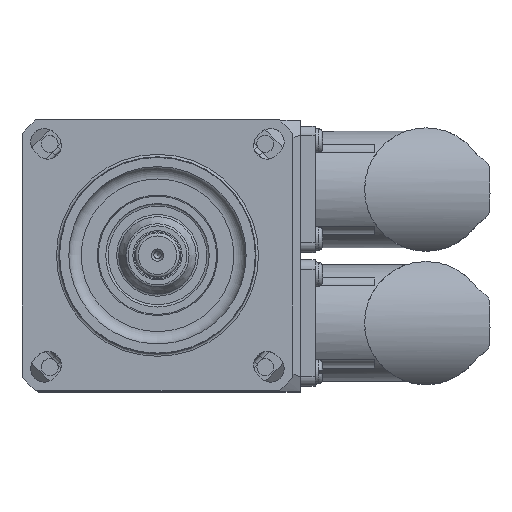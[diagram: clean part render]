
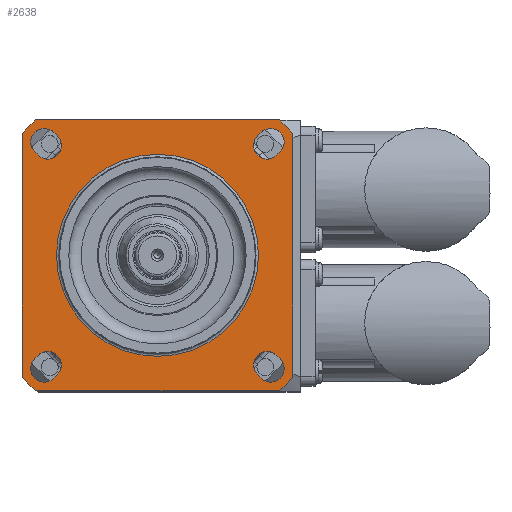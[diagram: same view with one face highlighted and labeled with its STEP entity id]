
A CAD part, top view. The second image highlights one B-rep face of the part: STEP entity #2638.
In plain terms, the highlighted planar face has unit normal (0, 0, 1) as drawn and (0, -1, 0) by its records, which use the part's own axes.
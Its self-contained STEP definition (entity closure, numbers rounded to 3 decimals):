
#847=LINE('',#19184,#1373);
#851=LINE('',#19193,#1377);
#855=LINE('',#19202,#1381);
#859=LINE('',#19211,#1385);
#888=LINE('',#19503,#1414);
#889=LINE('',#19508,#1415);
#890=LINE('',#19511,#1416);
#891=LINE('',#19516,#1417);
#892=LINE('',#19519,#1418);
#893=LINE('',#19524,#1419);
#894=LINE('',#19527,#1420);
#895=LINE('',#19532,#1421);
#1373=VECTOR('',#14880,1.);
#1377=VECTOR('',#14886,1.);
#1381=VECTOR('',#14892,1.);
#1385=VECTOR('',#14898,1.);
#1414=VECTOR('',#14939,1.);
#1415=VECTOR('',#14942,1.);
#1416=VECTOR('',#14945,1.);
#1417=VECTOR('',#14948,1.);
#1418=VECTOR('',#14951,1.);
#1419=VECTOR('',#14954,1.);
#1420=VECTOR('',#14957,1.);
#1421=VECTOR('',#14960,1.);
#2638=ADVANCED_FACE('',(#3978,#3979,#3980,#3981,#3982,#3497),#3190,.T.);
#3190=PLANE('',#12802);
#3497=FACE_OUTER_BOUND('',#4686,.T.);
#3978=FACE_BOUND('',#4681,.T.);
#3979=FACE_BOUND('',#4682,.T.);
#3980=FACE_BOUND('',#4683,.T.);
#3981=FACE_BOUND('',#4684,.T.);
#3982=FACE_BOUND('',#4685,.T.);
#4681=EDGE_LOOP('',(#6594));
#4682=EDGE_LOOP('',(#6595,#6596,#6597,#6598));
#4683=EDGE_LOOP('',(#6599,#6600,#6601,#6602));
#4684=EDGE_LOOP('',(#6603,#6604,#6605,#6606));
#4685=EDGE_LOOP('',(#6607,#6608,#6609,#6610));
#4686=EDGE_LOOP('',(#6611,#6612,#6613,#6614,#6615,#6616,#6617,#6618));
#6594=ORIENTED_EDGE('',*,*,#10555,.T.);
#6595=ORIENTED_EDGE('',*,*,#10556,.T.);
#6596=ORIENTED_EDGE('',*,*,#10557,.F.);
#6597=ORIENTED_EDGE('',*,*,#10558,.F.);
#6598=ORIENTED_EDGE('',*,*,#10559,.F.);
#6599=ORIENTED_EDGE('',*,*,#10560,.T.);
#6600=ORIENTED_EDGE('',*,*,#10561,.F.);
#6601=ORIENTED_EDGE('',*,*,#10562,.F.);
#6602=ORIENTED_EDGE('',*,*,#10563,.F.);
#6603=ORIENTED_EDGE('',*,*,#10564,.T.);
#6604=ORIENTED_EDGE('',*,*,#10565,.F.);
#6605=ORIENTED_EDGE('',*,*,#10566,.F.);
#6606=ORIENTED_EDGE('',*,*,#10567,.F.);
#6607=ORIENTED_EDGE('',*,*,#10568,.T.);
#6608=ORIENTED_EDGE('',*,*,#10569,.F.);
#6609=ORIENTED_EDGE('',*,*,#10570,.F.);
#6610=ORIENTED_EDGE('',*,*,#10571,.F.);
#6611=ORIENTED_EDGE('',*,*,#10572,.T.);
#6612=ORIENTED_EDGE('',*,*,#10498,.T.);
#6613=ORIENTED_EDGE('',*,*,#10573,.T.);
#6614=ORIENTED_EDGE('',*,*,#10490,.T.);
#6615=ORIENTED_EDGE('',*,*,#10574,.T.);
#6616=ORIENTED_EDGE('',*,*,#10486,.T.);
#6617=ORIENTED_EDGE('',*,*,#10575,.T.);
#6618=ORIENTED_EDGE('',*,*,#10494,.F.);
#9129=VERTEX_POINT('',#19179);
#9131=VERTEX_POINT('',#19183);
#9133=VERTEX_POINT('',#19188);
#9135=VERTEX_POINT('',#19192);
#9137=VERTEX_POINT('',#19197);
#9139=VERTEX_POINT('',#19201);
#9141=VERTEX_POINT('',#19206);
#9143=VERTEX_POINT('',#19210);
#9200=VERTEX_POINT('',#19502);
#9201=VERTEX_POINT('',#19504);
#9202=VERTEX_POINT('',#19505);
#9203=VERTEX_POINT('',#19507);
#9204=VERTEX_POINT('',#19509);
#9205=VERTEX_POINT('',#19512);
#9206=VERTEX_POINT('',#19513);
#9207=VERTEX_POINT('',#19515);
#9208=VERTEX_POINT('',#19517);
#9209=VERTEX_POINT('',#19520);
#9210=VERTEX_POINT('',#19521);
#9211=VERTEX_POINT('',#19523);
#9212=VERTEX_POINT('',#19525);
#9213=VERTEX_POINT('',#19528);
#9214=VERTEX_POINT('',#19529);
#9215=VERTEX_POINT('',#19531);
#9216=VERTEX_POINT('',#19533);
#10486=EDGE_CURVE('',#9129,#9131,#847,.T.);
#10490=EDGE_CURVE('',#9133,#9135,#851,.T.);
#10494=EDGE_CURVE('',#9139,#9137,#855,.T.);
#10498=EDGE_CURVE('',#9141,#9143,#859,.T.);
#10555=EDGE_CURVE('',#9200,#9200,#11813,.T.);
#10556=EDGE_CURVE('',#9201,#9202,#888,.T.);
#10557=EDGE_CURVE('',#9203,#9202,#11814,.T.);
#10558=EDGE_CURVE('',#9204,#9203,#889,.T.);
#10559=EDGE_CURVE('',#9201,#9204,#11815,.T.);
#10560=EDGE_CURVE('',#9205,#9206,#890,.T.);
#10561=EDGE_CURVE('',#9207,#9206,#11816,.T.);
#10562=EDGE_CURVE('',#9208,#9207,#891,.T.);
#10563=EDGE_CURVE('',#9205,#9208,#11817,.T.);
#10564=EDGE_CURVE('',#9209,#9210,#892,.T.);
#10565=EDGE_CURVE('',#9211,#9210,#11818,.T.);
#10566=EDGE_CURVE('',#9212,#9211,#893,.T.);
#10567=EDGE_CURVE('',#9209,#9212,#11819,.T.);
#10568=EDGE_CURVE('',#9213,#9214,#894,.T.);
#10569=EDGE_CURVE('',#9215,#9214,#11820,.T.);
#10570=EDGE_CURVE('',#9216,#9215,#895,.T.);
#10571=EDGE_CURVE('',#9213,#9216,#11821,.T.);
#10572=EDGE_CURVE('',#9139,#9141,#11822,.T.);
#10573=EDGE_CURVE('',#9143,#9133,#11823,.T.);
#10574=EDGE_CURVE('',#9135,#9129,#11824,.T.);
#10575=EDGE_CURVE('',#9131,#9137,#11825,.T.);
#11813=CIRCLE('',#12789,20.5);
#11814=CIRCLE('',#12790,2.75);
#11815=CIRCLE('',#12791,2.75);
#11816=CIRCLE('',#12792,2.75);
#11817=CIRCLE('',#12793,2.75);
#11818=CIRCLE('',#12794,2.75);
#11819=CIRCLE('',#12795,2.75);
#11820=CIRCLE('',#12796,2.75);
#11821=CIRCLE('',#12797,2.75);
#11822=CIRCLE('',#12798,37.);
#11823=CIRCLE('',#12799,37.);
#11824=CIRCLE('',#12800,37.);
#11825=CIRCLE('',#12801,37.);
#12789=AXIS2_PLACEMENT_3D('',#19501,#14937,#14938);
#12790=AXIS2_PLACEMENT_3D('',#19506,#14940,#14941);
#12791=AXIS2_PLACEMENT_3D('',#19510,#14943,#14944);
#12792=AXIS2_PLACEMENT_3D('',#19514,#14946,#14947);
#12793=AXIS2_PLACEMENT_3D('',#19518,#14949,#14950);
#12794=AXIS2_PLACEMENT_3D('',#19522,#14952,#14953);
#12795=AXIS2_PLACEMENT_3D('',#19526,#14955,#14956);
#12796=AXIS2_PLACEMENT_3D('',#19530,#14958,#14959);
#12797=AXIS2_PLACEMENT_3D('',#19534,#14961,#14962);
#12798=AXIS2_PLACEMENT_3D('',#19535,#14963,#14964);
#12799=AXIS2_PLACEMENT_3D('',#19536,#14965,#14966);
#12800=AXIS2_PLACEMENT_3D('',#19537,#14967,#14968);
#12801=AXIS2_PLACEMENT_3D('',#19538,#14969,#14970);
#12802=AXIS2_PLACEMENT_3D('',#19539,#14971,#14972);
#14880=DIRECTION('',(-1.,0.,0.));
#14886=DIRECTION('',(0.,0.,1.));
#14892=DIRECTION('',(0.,0.,1.));
#14898=DIRECTION('',(1.,0.,0.));
#14937=DIRECTION('',(0.,1.,0.));
#14938=DIRECTION('',(0.,0.,-1.));
#14939=DIRECTION('',(0.707,0.,0.707));
#14940=DIRECTION('',(0.,-1.,0.));
#14941=DIRECTION('',(1.,0.,0.));
#14942=DIRECTION('',(0.707,0.,0.707));
#14943=DIRECTION('',(0.,-1.,0.));
#14944=DIRECTION('',(1.,0.,0.));
#14945=DIRECTION('',(-0.707,0.,0.707));
#14946=DIRECTION('',(0.,-1.,0.));
#14947=DIRECTION('',(0.,0.,1.));
#14948=DIRECTION('',(-0.707,0.,0.707));
#14949=DIRECTION('',(0.,-1.,0.));
#14950=DIRECTION('',(0.,0.,1.));
#14951=DIRECTION('',(-0.707,0.,-0.707));
#14952=DIRECTION('',(0.,-1.,0.));
#14953=DIRECTION('',(-1.,0.,0.));
#14954=DIRECTION('',(-0.707,0.,-0.707));
#14955=DIRECTION('',(0.,-1.,0.));
#14956=DIRECTION('',(-1.,0.,0.));
#14957=DIRECTION('',(0.707,0.,-0.707));
#14958=DIRECTION('',(0.,-1.,0.));
#14959=DIRECTION('',(0.,0.,-1.));
#14960=DIRECTION('',(0.707,0.,-0.707));
#14961=DIRECTION('',(0.,-1.,0.));
#14962=DIRECTION('',(0.,0.,-1.));
#14963=DIRECTION('',(0.,-1.,0.));
#14964=DIRECTION('',(-1.,0.,0.));
#14965=DIRECTION('',(0.,-1.,0.));
#14966=DIRECTION('',(-1.,0.,0.));
#14967=DIRECTION('',(0.,-1.,0.));
#14968=DIRECTION('',(-1.,0.,0.));
#14969=DIRECTION('',(0.,-1.,0.));
#14970=DIRECTION('',(-1.,0.,0.));
#14971=DIRECTION('',(0.,-1.,0.));
#14972=DIRECTION('',(0.,0.,-1.));
#19179=CARTESIAN_POINT('',(17.254,-0.5,20.));
#19183=CARTESIAN_POINT('',(-32.254,-0.5,20.));
#19184=CARTESIAN_POINT('',(-7.5,-0.5,20.));
#19188=CARTESIAN_POINT('',(20.,-0.5,-32.254));
#19192=CARTESIAN_POINT('',(20.,-0.5,17.254));
#19193=CARTESIAN_POINT('',(20.,-0.5,-35.));
#19197=CARTESIAN_POINT('',(-35.,-0.5,17.254));
#19201=CARTESIAN_POINT('',(-35.,-0.5,-32.254));
#19202=CARTESIAN_POINT('',(-35.,-0.5,-35.));
#19206=CARTESIAN_POINT('',(-32.254,-0.5,-35.));
#19210=CARTESIAN_POINT('',(17.254,-0.5,-35.));
#19211=CARTESIAN_POINT('',(-7.5,-0.5,-35.));
#19501=CARTESIAN_POINT('',(-7.5,-0.5,-7.5));
#19502=CARTESIAN_POINT('',(-7.5,-0.5,-28.));
#19503=CARTESIAN_POINT('',(-32.072,-0.5,-28.183));
#19504=CARTESIAN_POINT('',(-32.426,-0.5,-28.536));
#19505=CARTESIAN_POINT('',(-31.718,-0.5,-27.829));
#19506=CARTESIAN_POINT('',(-29.774,-0.5,-29.774));
#19507=CARTESIAN_POINT('',(-27.829,-0.5,-31.718));
#19508=CARTESIAN_POINT('',(-28.183,-0.5,-32.072));
#19509=CARTESIAN_POINT('',(-28.536,-0.5,-32.426));
#19510=CARTESIAN_POINT('',(-30.481,-0.5,-30.481));
#19511=CARTESIAN_POINT('',(13.183,-0.5,-32.072));
#19512=CARTESIAN_POINT('',(13.536,-0.5,-32.426));
#19513=CARTESIAN_POINT('',(12.829,-0.5,-31.718));
#19514=CARTESIAN_POINT('',(14.774,-0.5,-29.774));
#19515=CARTESIAN_POINT('',(16.718,-0.5,-27.829));
#19516=CARTESIAN_POINT('',(17.072,-0.5,-28.183));
#19517=CARTESIAN_POINT('',(17.426,-0.5,-28.536));
#19518=CARTESIAN_POINT('',(15.481,-0.5,-30.481));
#19519=CARTESIAN_POINT('',(17.072,-0.5,13.183));
#19520=CARTESIAN_POINT('',(17.426,-0.5,13.536));
#19521=CARTESIAN_POINT('',(16.718,-0.5,12.829));
#19522=CARTESIAN_POINT('',(14.774,-0.5,14.774));
#19523=CARTESIAN_POINT('',(12.829,-0.5,16.718));
#19524=CARTESIAN_POINT('',(13.183,-0.5,17.072));
#19525=CARTESIAN_POINT('',(13.536,-0.5,17.426));
#19526=CARTESIAN_POINT('',(15.481,-0.5,15.481));
#19527=CARTESIAN_POINT('',(-28.183,-0.5,17.072));
#19528=CARTESIAN_POINT('',(-28.536,-0.5,17.426));
#19529=CARTESIAN_POINT('',(-27.829,-0.5,16.718));
#19530=CARTESIAN_POINT('',(-29.774,-0.5,14.774));
#19531=CARTESIAN_POINT('',(-31.718,-0.5,12.829));
#19532=CARTESIAN_POINT('',(-32.072,-0.5,13.183));
#19533=CARTESIAN_POINT('',(-32.426,-0.5,13.536));
#19534=CARTESIAN_POINT('',(-30.481,-0.5,15.481));
#19535=CARTESIAN_POINT('',(-7.5,-0.5,-7.5));
#19536=CARTESIAN_POINT('',(-7.5,-0.5,-7.5));
#19537=CARTESIAN_POINT('',(-7.5,-0.5,-7.5));
#19538=CARTESIAN_POINT('',(-7.5,-0.5,-7.5));
#19539=CARTESIAN_POINT('',(-7.5,-0.5,-35.));
